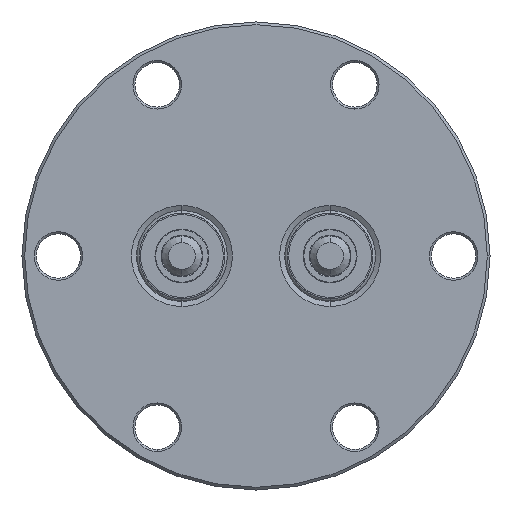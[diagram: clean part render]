
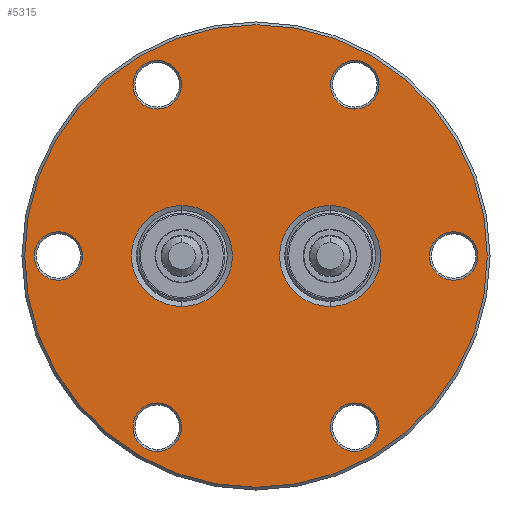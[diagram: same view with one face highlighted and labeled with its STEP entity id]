
A CAD part, left-side view. The second image highlights one B-rep face of the part: STEP entity #5315.
In plain terms, the highlighted planar face has unit normal (-1, 0, 0).
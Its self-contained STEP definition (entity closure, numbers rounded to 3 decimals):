
#1288=CARTESIAN_POINT('',(0.,-34.35,0.));
#1289=VERTEX_POINT('',#1288);
#1298=CARTESIAN_POINT('',(0.,34.35,0.));
#1299=VERTEX_POINT('',#1298);
#1300=CARTESIAN_POINT('',(0.,0.,0.0));
#1301=DIRECTION('',(1.0,0.0,0.0));
#1302=DIRECTION('',(0.0,-1.0,0.0));
#1303=AXIS2_PLACEMENT_3D('',#1300,#1301,#1302);
#1304=CIRCLE('',#1303,34.35);
#1305=EDGE_CURVE('',#1289,#1299,#1304,.T.);
#1904=CARTESIAN_POINT('',(0.,14.675,-29.018));
#1905=VERTEX_POINT('',#1904);
#1919=CARTESIAN_POINT('',(0.,14.675,-21.818));
#1920=VERTEX_POINT('',#1919);
#1927=CARTESIAN_POINT('',(0.,14.675,-25.418));
#1928=DIRECTION('',(-1.0,0.0,0.0));
#1929=DIRECTION('',(0.0,0.0,-1.0));
#1930=AXIS2_PLACEMENT_3D('',#1927,#1928,#1929);
#1931=CIRCLE('',#1930,3.6);
#1932=EDGE_CURVE('',#1920,#1905,#1931,.T.);
#2052=CARTESIAN_POINT('',(0.,32.468,-1.8));
#2053=VERTEX_POINT('',#2052);
#2067=CARTESIAN_POINT('',(0.,26.232,1.8));
#2068=VERTEX_POINT('',#2067);
#2075=CARTESIAN_POINT('',(0.,29.35,0.));
#2076=DIRECTION('',(-1.0,0.,0.));
#2077=DIRECTION('',(0.,0.866,-0.5));
#2078=AXIS2_PLACEMENT_3D('',#2075,#2076,#2077);
#2079=CIRCLE('',#2078,3.6);
#2080=EDGE_CURVE('',#2068,#2053,#2079,.T.);
#2191=CARTESIAN_POINT('',(0.,17.793,27.218));
#2192=VERTEX_POINT('',#2191);
#2206=CARTESIAN_POINT('',(0.,11.557,23.618));
#2207=VERTEX_POINT('',#2206);
#2214=CARTESIAN_POINT('',(0.,14.675,25.418));
#2215=DIRECTION('',(-1.,0.,0.));
#2216=DIRECTION('',(0.,0.866,0.5));
#2217=AXIS2_PLACEMENT_3D('',#2214,#2215,#2216);
#2218=CIRCLE('',#2217,3.6);
#2219=EDGE_CURVE('',#2207,#2192,#2218,.T.);
#2330=CARTESIAN_POINT('',(0.,-14.675,29.018));
#2331=VERTEX_POINT('',#2330);
#2345=CARTESIAN_POINT('',(0.,-14.675,21.818));
#2346=VERTEX_POINT('',#2345);
#2353=CARTESIAN_POINT('',(0.,-14.675,25.418));
#2354=DIRECTION('',(-1.0,0.0,0.0));
#2355=DIRECTION('',(0.0,0.0,1.0));
#2356=AXIS2_PLACEMENT_3D('',#2353,#2354,#2355);
#2357=CIRCLE('',#2356,3.6);
#2358=EDGE_CURVE('',#2346,#2331,#2357,.T.);
#2469=CARTESIAN_POINT('',(0.,-32.468,1.8));
#2470=VERTEX_POINT('',#2469);
#2484=CARTESIAN_POINT('',(0.,-26.232,-1.8));
#2485=VERTEX_POINT('',#2484);
#2492=CARTESIAN_POINT('',(0.,-29.35,0.));
#2493=DIRECTION('',(-1.0,0.,0.));
#2494=DIRECTION('',(0.,-0.866,0.5));
#2495=AXIS2_PLACEMENT_3D('',#2492,#2493,#2494);
#2496=CIRCLE('',#2495,3.6);
#2497=EDGE_CURVE('',#2485,#2470,#2496,.T.);
#2608=CARTESIAN_POINT('',(0.,-17.793,-27.218));
#2609=VERTEX_POINT('',#2608);
#2623=CARTESIAN_POINT('',(0.,-11.557,-23.618));
#2624=VERTEX_POINT('',#2623);
#2631=CARTESIAN_POINT('',(0.,-14.675,-25.418));
#2632=DIRECTION('',(-1.0,0.,0.));
#2633=DIRECTION('',(0.,-0.866,-0.5));
#2634=AXIS2_PLACEMENT_3D('',#2631,#2632,#2633);
#2635=CIRCLE('',#2634,3.6);
#2636=EDGE_CURVE('',#2624,#2609,#2635,.T.);
#2875=CARTESIAN_POINT('',(0.,11.,7.5));
#2876=VERTEX_POINT('',#2875);
#2892=CARTESIAN_POINT('',(0.,11.,-7.5));
#2893=VERTEX_POINT('',#2892);
#2900=CARTESIAN_POINT('',(0.,11.,0.0));
#2901=DIRECTION('',(1.0,0.0,0.0));
#2902=DIRECTION('',(0.0,0.0,1.0));
#2903=AXIS2_PLACEMENT_3D('',#2900,#2901,#2902);
#2904=CIRCLE('',#2903,7.5);
#2905=EDGE_CURVE('',#2876,#2893,#2904,.T.);
#3144=CARTESIAN_POINT('',(0.,-11.,-7.5));
#3145=VERTEX_POINT('',#3144);
#3161=CARTESIAN_POINT('',(0.,-11.,7.5));
#3162=VERTEX_POINT('',#3161);
#3169=CARTESIAN_POINT('',(0.,-11.0,0.));
#3170=DIRECTION('',(1.0,0.0,0.0));
#3171=DIRECTION('',(0.0,0.0,-1.0));
#3172=AXIS2_PLACEMENT_3D('',#3169,#3170,#3171);
#3173=CIRCLE('',#3172,7.5);
#3174=EDGE_CURVE('',#3145,#3162,#3173,.T.);
#4908=CARTESIAN_POINT('',(0.,-11.0,0.));
#4909=DIRECTION('',(1.0,0.0,0.0));
#4910=DIRECTION('',(0.0,0.0,-1.0));
#4911=AXIS2_PLACEMENT_3D('',#4908,#4909,#4910);
#4912=CIRCLE('',#4911,7.5);
#4913=EDGE_CURVE('',#3162,#3145,#4912,.T.);
#5065=CARTESIAN_POINT('',(0.,11.,0.0));
#5066=DIRECTION('',(1.0,0.0,0.0));
#5067=DIRECTION('',(0.0,0.0,1.0));
#5068=AXIS2_PLACEMENT_3D('',#5065,#5066,#5067);
#5069=CIRCLE('',#5068,7.5);
#5070=EDGE_CURVE('',#2893,#2876,#5069,.T.);
#5193=CARTESIAN_POINT('',(0.,-14.675,-25.418));
#5194=DIRECTION('',(-1.0,0.,0.));
#5195=DIRECTION('',(0.,-0.866,-0.5));
#5196=AXIS2_PLACEMENT_3D('',#5193,#5194,#5195);
#5197=CIRCLE('',#5196,3.6);
#5198=EDGE_CURVE('',#2609,#2624,#5197,.T.);
#5238=CARTESIAN_POINT('',(0.0,17.375,0.0));
#5239=DIRECTION('',(-1.0,0.0,0.0));
#5240=DIRECTION('',(0.0,0.0,1.0));
#5241=AXIS2_PLACEMENT_3D('',#5238,#5239,#5240);
#5242=PLANE('',#5241);
#5243=CARTESIAN_POINT('',(0.,0.,0.0));
#5244=DIRECTION('',(1.0,0.0,0.0));
#5245=DIRECTION('',(0.0,-1.0,0.0));
#5246=AXIS2_PLACEMENT_3D('',#5243,#5244,#5245);
#5247=CIRCLE('',#5246,34.35);
#5248=EDGE_CURVE('',#1299,#1289,#5247,.T.);
#5249=ORIENTED_EDGE('',*,*,#5248,.F.);
#5250=ORIENTED_EDGE('',*,*,#1305,.F.);
#5251=EDGE_LOOP('',(#5249,#5250));
#5252=FACE_OUTER_BOUND('',#5251,.T.);
#5253=ORIENTED_EDGE('',*,*,#3174,.T.);
#5254=ORIENTED_EDGE('',*,*,#4913,.T.);
#5255=EDGE_LOOP('',(#5253,#5254));
#5256=FACE_BOUND('',#5255,.T.);
#5257=ORIENTED_EDGE('',*,*,#2905,.T.);
#5258=ORIENTED_EDGE('',*,*,#5070,.T.);
#5259=EDGE_LOOP('',(#5257,#5258));
#5260=FACE_BOUND('',#5259,.T.);
#5261=ORIENTED_EDGE('',*,*,#2497,.F.);
#5262=CARTESIAN_POINT('',(0.,-29.35,0.));
#5263=DIRECTION('',(-1.0,0.,0.));
#5264=DIRECTION('',(0.,-0.866,0.5));
#5265=AXIS2_PLACEMENT_3D('',#5262,#5263,#5264);
#5266=CIRCLE('',#5265,3.6);
#5267=EDGE_CURVE('',#2470,#2485,#5266,.T.);
#5268=ORIENTED_EDGE('',*,*,#5267,.F.);
#5269=EDGE_LOOP('',(#5261,#5268));
#5270=FACE_BOUND('',#5269,.T.);
#5271=ORIENTED_EDGE('',*,*,#2219,.F.);
#5272=CARTESIAN_POINT('',(0.,14.675,25.418));
#5273=DIRECTION('',(-1.,0.,0.));
#5274=DIRECTION('',(0.,0.866,0.5));
#5275=AXIS2_PLACEMENT_3D('',#5272,#5273,#5274);
#5276=CIRCLE('',#5275,3.6);
#5277=EDGE_CURVE('',#2192,#2207,#5276,.T.);
#5278=ORIENTED_EDGE('',*,*,#5277,.F.);
#5279=EDGE_LOOP('',(#5271,#5278));
#5280=FACE_BOUND('',#5279,.T.);
#5281=ORIENTED_EDGE('',*,*,#1932,.F.);
#5282=CARTESIAN_POINT('',(0.,14.675,-25.418));
#5283=DIRECTION('',(-1.0,0.0,0.0));
#5284=DIRECTION('',(0.0,0.0,-1.0));
#5285=AXIS2_PLACEMENT_3D('',#5282,#5283,#5284);
#5286=CIRCLE('',#5285,3.6);
#5287=EDGE_CURVE('',#1905,#1920,#5286,.T.);
#5288=ORIENTED_EDGE('',*,*,#5287,.F.);
#5289=EDGE_LOOP('',(#5281,#5288));
#5290=FACE_BOUND('',#5289,.T.);
#5291=ORIENTED_EDGE('',*,*,#2080,.F.);
#5292=CARTESIAN_POINT('',(0.,29.35,0.));
#5293=DIRECTION('',(-1.0,0.,0.));
#5294=DIRECTION('',(0.,0.866,-0.5));
#5295=AXIS2_PLACEMENT_3D('',#5292,#5293,#5294);
#5296=CIRCLE('',#5295,3.6);
#5297=EDGE_CURVE('',#2053,#2068,#5296,.T.);
#5298=ORIENTED_EDGE('',*,*,#5297,.F.);
#5299=EDGE_LOOP('',(#5291,#5298));
#5300=FACE_BOUND('',#5299,.T.);
#5301=ORIENTED_EDGE('',*,*,#2358,.F.);
#5302=CARTESIAN_POINT('',(0.,-14.675,25.418));
#5303=DIRECTION('',(-1.0,0.0,0.0));
#5304=DIRECTION('',(0.0,0.0,1.0));
#5305=AXIS2_PLACEMENT_3D('',#5302,#5303,#5304);
#5306=CIRCLE('',#5305,3.6);
#5307=EDGE_CURVE('',#2331,#2346,#5306,.T.);
#5308=ORIENTED_EDGE('',*,*,#5307,.F.);
#5309=EDGE_LOOP('',(#5301,#5308));
#5310=FACE_BOUND('',#5309,.T.);
#5311=ORIENTED_EDGE('',*,*,#2636,.F.);
#5312=ORIENTED_EDGE('',*,*,#5198,.F.);
#5313=EDGE_LOOP('',(#5311,#5312));
#5314=FACE_BOUND('',#5313,.T.);
#5315=ADVANCED_FACE('',(#5252,#5256,#5260,#5270,#5280,#5290,#5300,#5310,#5314),#5242,.T.);
